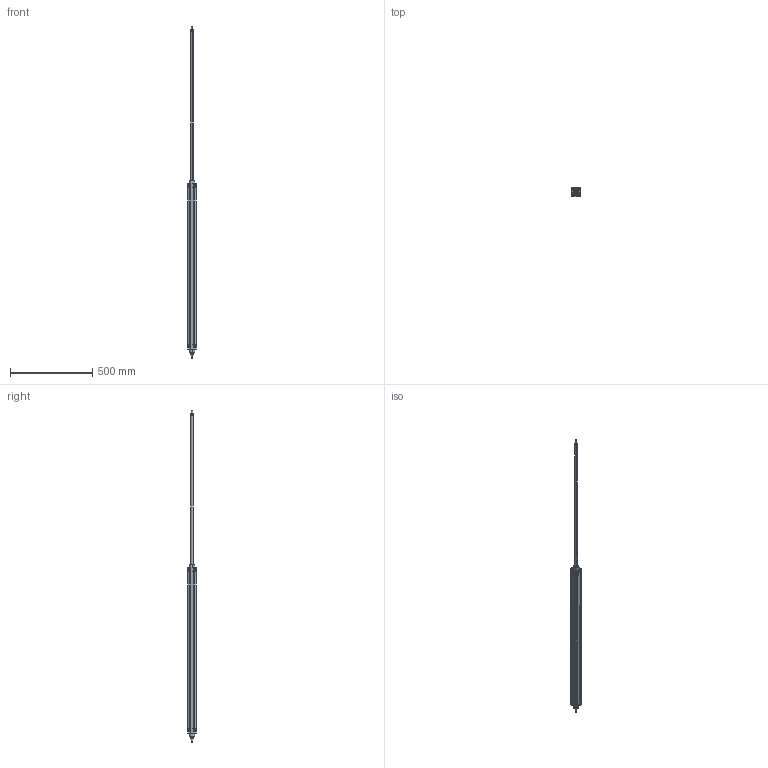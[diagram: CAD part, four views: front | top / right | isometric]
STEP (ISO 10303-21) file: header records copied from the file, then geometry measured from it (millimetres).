
FILE_DESCRIPTION((''),'2;1');
FILE_NAME('N11M40400900.stp','2010-01-07T00:36:48',('B. Petkovic 2010'),('AZ PNEUMATICA S.r.l.'),'Mechanical Desktop 2006','Mechanical Desktop 2006','Via Marco Biagi 6, I-20020 Misinto(MI) Italy, azpneu@tin.it');
FILE_SCHEMA(('CONFIG_CONTROL_DESIGN'));
Length unit declared in the file: millimetre
Products named in the file (2): N11M40320900; CILINDAR
Assembly tree (1 placements, depth 2):
  N11M40320900
    CILINDAR
Bounding box: 53 x 53 x 2013 mm (x, y, z)
Volume: 2509914.5 mm3; surface area: 348217.1 mm2
Topology: 1 solids, 1 shells, 529 faces, 1371 edges, 892 vertices
Faces by surface type: plane 299, cylinder 202, torus 12, cone 8, bspline 8
Entity records: 16818 total; most frequent: CARTESIAN_POINT 3346, DIRECTION 2897, ORIENTED_EDGE 2742, EDGE_CURVE 1371, AXIS2_PLACEMENT_3D 1011, VERTEX_POINT 892, VECTOR 875, LINE 875
